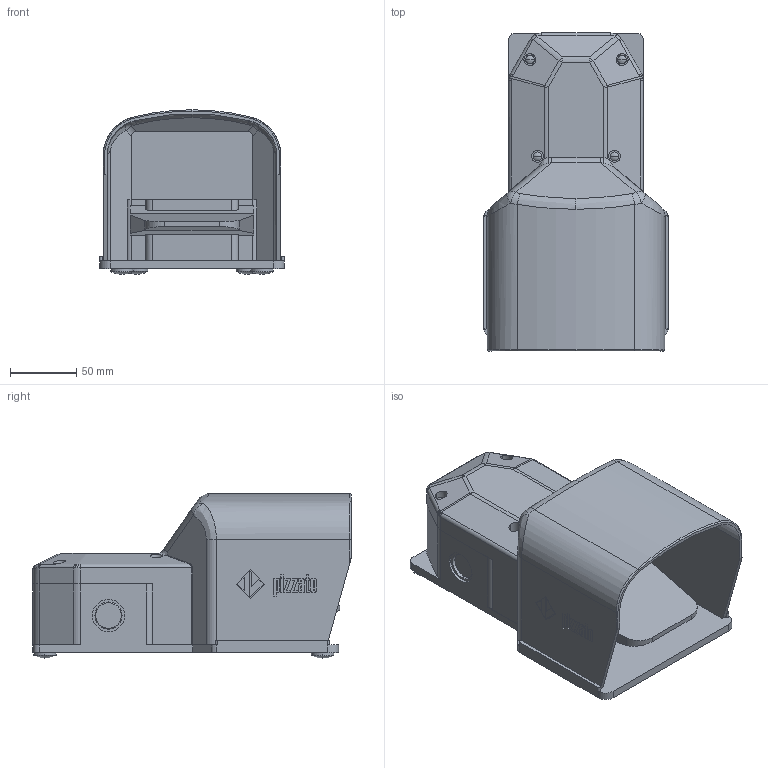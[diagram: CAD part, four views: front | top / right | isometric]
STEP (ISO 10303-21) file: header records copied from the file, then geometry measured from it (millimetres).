
FILE_DESCRIPTION (( 'STEP AP203' ), '1' );
FILE_NAME ('ZF_STEP_PX_xxx0x_A08.STEP', '2009-02-20T13:09:53', ( 'mario' ), ( '' ), 'SwSTEP 2.0', 'SolidWorks 2009', '' );
FILE_SCHEMA (( 'CONFIG_CONTROL_DESIGN' ));
Length unit declared in the file: millimetre
Products named in the file (3): Pizzato_Protezione_PX_1270; Pizzato_Base_Pedale_1209; ZF_STEP_PX_xxx0x_A08
Assembly tree (2 placements, depth 2):
  ZF_STEP_PX_xxx0x_A08
    Pizzato_Base_Pedale_1209
    Pizzato_Protezione_PX_1270
Bounding box: 139.4 x 240 x 124.1 mm (x, y, z)
Volume: 1157187.6 mm3; surface area: 234446.4 mm2
Topology: 2 solids, 2 shells, 705 faces, 1836 edges, 1200 vertices
Faces by surface type: plane 361, bspline 170, cylinder 138, sphere 20, cone 8, torus 8
Entity records: 29077 total; most frequent: CARTESIAN_POINT 12536, ORIENTED_EDGE 3664, DIRECTION 2848, EDGE_CURVE 1832, VERTEX_POINT 1200, VECTOR 1164, LINE 1164, AXIS2_PLACEMENT_3D 842
